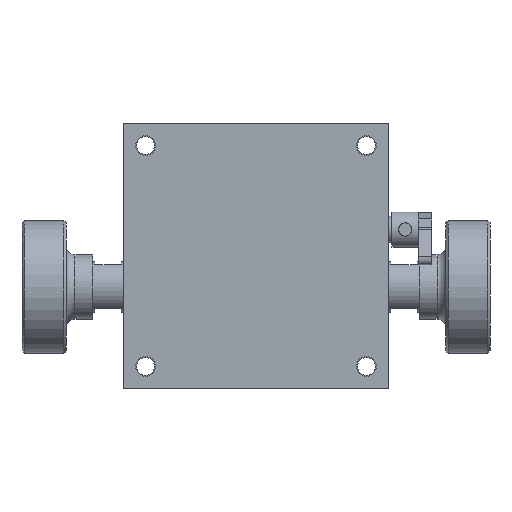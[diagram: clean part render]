
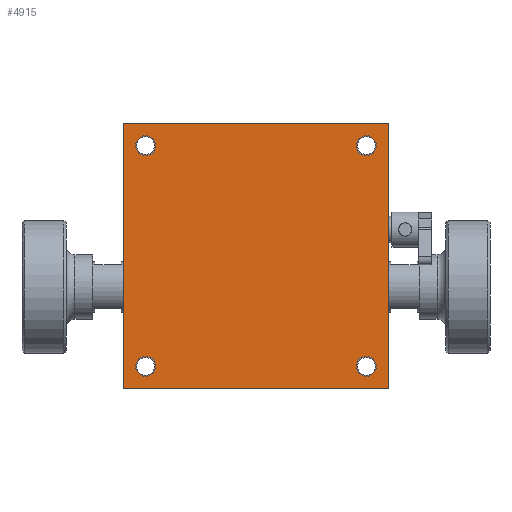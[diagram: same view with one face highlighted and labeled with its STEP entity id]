
A CAD part, front view. The second image highlights one B-rep face of the part: STEP entity #4915.
In plain terms, the highlighted planar face has unit normal (0, -1, 0).
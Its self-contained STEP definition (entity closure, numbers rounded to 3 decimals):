
#3322 = EDGE_LOOP ( 'NONE', ( #4897, #4901, #4903, #4904 ) ) ;
#4353 = EDGE_CURVE ( 'NONE', #4354, #4355, #18578, .T. ) ;
#4354 = VERTEX_POINT ( 'NONE', #18574 ) ;
#4355 = VERTEX_POINT ( 'NONE', #18573 ) ;
#4387 = EDGE_CURVE ( 'NONE', #4388, #4389, #18642, .T. ) ;
#4388 = VERTEX_POINT ( 'NONE', #18638 ) ;
#4389 = VERTEX_POINT ( 'NONE', #18637 ) ;
#4404 = EDGE_CURVE ( 'NONE', #4405, #4406, #18673, .T. ) ;
#4405 = VERTEX_POINT ( 'NONE', #18669 ) ;
#4406 = VERTEX_POINT ( 'NONE', #18668 ) ;
#4420 = EDGE_CURVE ( 'NONE', #4421, #4422, #18705, .T. ) ;
#4421 = VERTEX_POINT ( 'NONE', #18701 ) ;
#4422 = VERTEX_POINT ( 'NONE', #18700 ) ;
#4842 = EDGE_LOOP ( 'NONE', ( #4843, #4845 ) ) ;
#4843 = ORIENTED_EDGE ( 'NONE', *, *, #4844, .T. ) ;
#4844 = EDGE_CURVE ( 'NONE', #4355, #4354, #20121, .T. ) ;
#4845 = ORIENTED_EDGE ( 'NONE', *, *, #4353, .T. ) ;
#4852 = EDGE_CURVE ( 'NONE', #4406, #4405, #20092, .T. ) ;
#4870 = EDGE_CURVE ( 'NONE', #4389, #4388, #20124, .T. ) ;
#4885 = ORIENTED_EDGE ( 'NONE', *, *, #4387, .T. ) ;
#4897 = ORIENTED_EDGE ( 'NONE', *, *, #4898, .T. ) ;
#4898 = EDGE_CURVE ( 'NONE', #4899, #4900, #20206, .T. ) ;
#4899 = VERTEX_POINT ( 'NONE', #20202 ) ;
#4900 = VERTEX_POINT ( 'NONE', #20201 ) ;
#4901 = ORIENTED_EDGE ( 'NONE', *, *, #4902, .F. ) ;
#4902 = EDGE_CURVE ( 'NONE', #5879, #4900, #20200, .T. ) ;
#4903 = ORIENTED_EDGE ( 'NONE', *, *, #5878, .F. ) ;
#4904 = ORIENTED_EDGE ( 'NONE', *, *, #4905, .T. ) ;
#4905 = EDGE_CURVE ( 'NONE', #5876, #4899, #20196, .T. ) ;
#4906 = EDGE_LOOP ( 'NONE', ( #4907, #4908 ) ) ;
#4907 = ORIENTED_EDGE ( 'NONE', *, *, #4911, .T. ) ;
#4908 = ORIENTED_EDGE ( 'NONE', *, *, #4420, .T. ) ;
#4909 = EDGE_LOOP ( 'NONE', ( #4910, #4885 ) ) ;
#4910 = ORIENTED_EDGE ( 'NONE', *, *, #4870, .T. ) ;
#4911 = EDGE_CURVE ( 'NONE', #4422, #4421, #20192, .T. ) ;
#4915 = ADVANCED_FACE ( 'NONE', ( #20248, #20247, #20246, #20245, #20244 ), #20243, .F. ) ;
#4916 = EDGE_LOOP ( 'NONE', ( #4917, #4918 ) ) ;
#4917 = ORIENTED_EDGE ( 'NONE', *, *, #4852, .T. ) ;
#4918 = ORIENTED_EDGE ( 'NONE', *, *, #4404, .T. ) ;
#5876 = VERTEX_POINT ( 'NONE', #21893 ) ;
#5878 = EDGE_CURVE ( 'NONE', #5876, #5879, #21892, .T. ) ;
#5879 = VERTEX_POINT ( 'NONE', #21888 ) ;
#18573 = CARTESIAN_POINT ( 'NONE',  ( -5., 0., -22.75 ) ) ;
#18574 = CARTESIAN_POINT ( 'NONE',  ( -5., 0., -27.25 ) ) ;
#18575 = DIRECTION ( 'NONE',  ( 0., 0., 1. ) ) ;
#18576 = DIRECTION ( 'NONE',  ( 0., 1., 0. ) ) ;
#18577 = AXIS2_PLACEMENT_3D ( 'NONE', #18584, #18576, #18575 ) ;
#18578 = CIRCLE ( 'NONE', #18577, 2.25 ) ;
#18584 = CARTESIAN_POINT ( 'NONE',  ( -5., 0., -25. ) ) ;
#18637 = CARTESIAN_POINT ( 'NONE',  ( -55., 0., 27.25 ) ) ;
#18638 = CARTESIAN_POINT ( 'NONE',  ( -55., 0., 22.75 ) ) ;
#18639 = DIRECTION ( 'NONE',  ( 0., 0., 1. ) ) ;
#18640 = DIRECTION ( 'NONE',  ( 0., 1., 0. ) ) ;
#18641 = AXIS2_PLACEMENT_3D ( 'NONE', #18648, #18640, #18639 ) ;
#18642 = CIRCLE ( 'NONE', #18641, 2.25 ) ;
#18648 = CARTESIAN_POINT ( 'NONE',  ( -55., 0., 25. ) ) ;
#18668 = CARTESIAN_POINT ( 'NONE',  ( -55., 0., -22.75 ) ) ;
#18669 = CARTESIAN_POINT ( 'NONE',  ( -55., 0., -27.25 ) ) ;
#18670 = DIRECTION ( 'NONE',  ( 0., 0., 1. ) ) ;
#18671 = DIRECTION ( 'NONE',  ( 0., 1., 0. ) ) ;
#18672 = AXIS2_PLACEMENT_3D ( 'NONE', #18678, #18671, #18670 ) ;
#18673 = CIRCLE ( 'NONE', #18672, 2.25 ) ;
#18678 = CARTESIAN_POINT ( 'NONE',  ( -55., 0., -25. ) ) ;
#18700 = CARTESIAN_POINT ( 'NONE',  ( -5., 0., 27.25 ) ) ;
#18701 = CARTESIAN_POINT ( 'NONE',  ( -5., 0., 22.75 ) ) ;
#18702 = DIRECTION ( 'NONE',  ( 0., 0., 1. ) ) ;
#18703 = DIRECTION ( 'NONE',  ( 0., 1., 0. ) ) ;
#18704 = AXIS2_PLACEMENT_3D ( 'NONE', #18709, #18703, #18702 ) ;
#18705 = CIRCLE ( 'NONE', #18704, 2.25 ) ;
#18709 = CARTESIAN_POINT ( 'NONE',  ( -5., 0., 25. ) ) ;
#20054 = CARTESIAN_POINT ( 'NONE',  ( -5., 0., -25. ) ) ;
#20084 = DIRECTION ( 'NONE',  ( 0., 0., 1. ) ) ;
#20085 = DIRECTION ( 'NONE',  ( 0., 1., 0. ) ) ;
#20086 = CARTESIAN_POINT ( 'NONE',  ( -55., 0., -25. ) ) ;
#20087 = AXIS2_PLACEMENT_3D ( 'NONE', #20086, #20085, #20084 ) ;
#20092 = CIRCLE ( 'NONE', #20087, 2.25 ) ;
#20118 = DIRECTION ( 'NONE',  ( 0., 0., 1. ) ) ;
#20119 = DIRECTION ( 'NONE',  ( 0., 1., 0. ) ) ;
#20120 = AXIS2_PLACEMENT_3D ( 'NONE', #20054, #20119, #20118 ) ;
#20121 = CIRCLE ( 'NONE', #20120, 2.25 ) ;
#20122 = DIRECTION ( 'NONE',  ( 0., 1., 0. ) ) ;
#20123 = AXIS2_PLACEMENT_3D ( 'NONE', #20129, #20122, #20186 ) ;
#20124 = CIRCLE ( 'NONE', #20123, 2.25 ) ;
#20129 = CARTESIAN_POINT ( 'NONE',  ( -55., 0., 25. ) ) ;
#20186 = DIRECTION ( 'NONE',  ( 0., 0., 1. ) ) ;
#20188 = DIRECTION ( 'NONE',  ( 0., 0., 1. ) ) ;
#20189 = DIRECTION ( 'NONE',  ( 0., 1., 0. ) ) ;
#20190 = CARTESIAN_POINT ( 'NONE',  ( -5., 0., 25. ) ) ;
#20191 = AXIS2_PLACEMENT_3D ( 'NONE', #20190, #20189, #20188 ) ;
#20192 = CIRCLE ( 'NONE', #20191, 2.25 ) ;
#20193 = DIRECTION ( 'NONE',  ( 0., 0., -1. ) ) ;
#20194 = VECTOR ( 'NONE', #20193, 1000. ) ;
#20195 = CARTESIAN_POINT ( 'NONE',  ( -60., 0., 30. ) ) ;
#20196 = LINE ( 'NONE', #20195, #20194 ) ;
#20197 = DIRECTION ( 'NONE',  ( 0., 0., -1. ) ) ;
#20198 = VECTOR ( 'NONE', #20197, 1000. ) ;
#20199 = CARTESIAN_POINT ( 'NONE',  ( 0., 0., 30. ) ) ;
#20200 = LINE ( 'NONE', #20199, #20198 ) ;
#20201 = CARTESIAN_POINT ( 'NONE',  ( 0., 0., -30. ) ) ;
#20202 = CARTESIAN_POINT ( 'NONE',  ( -60., 0., -30. ) ) ;
#20203 = DIRECTION ( 'NONE',  ( 1., 0., 0. ) ) ;
#20204 = VECTOR ( 'NONE', #20203, 1000. ) ;
#20205 = CARTESIAN_POINT ( 'NONE',  ( -60., 0., -30. ) ) ;
#20206 = LINE ( 'NONE', #20205, #20204 ) ;
#20239 = DIRECTION ( 'NONE',  ( 0., 0., 1. ) ) ;
#20240 = DIRECTION ( 'NONE',  ( 0., 1., 0. ) ) ;
#20241 = CARTESIAN_POINT ( 'NONE',  ( -60., 0., 30. ) ) ;
#20242 = AXIS2_PLACEMENT_3D ( 'NONE', #20241, #20240, #20239 ) ;
#20243 = PLANE ( 'NONE',  #20242 ) ;
#20244 = FACE_BOUND ( 'NONE', #4909, .T. ) ;
#20245 = FACE_BOUND ( 'NONE', #4906, .T. ) ;
#20246 = FACE_OUTER_BOUND ( 'NONE', #3322, .T. ) ;
#20247 = FACE_BOUND ( 'NONE', #4842, .T. ) ;
#20248 = FACE_BOUND ( 'NONE', #4916, .T. ) ;
#21888 = CARTESIAN_POINT ( 'NONE',  ( 0., 0., 30. ) ) ;
#21889 = DIRECTION ( 'NONE',  ( 1., 0., 0. ) ) ;
#21890 = VECTOR ( 'NONE', #21889, 1000. ) ;
#21891 = CARTESIAN_POINT ( 'NONE',  ( -60., 0., 30. ) ) ;
#21892 = LINE ( 'NONE', #21891, #21890 ) ;
#21893 = CARTESIAN_POINT ( 'NONE',  ( -60., 0., 30. ) ) ;
